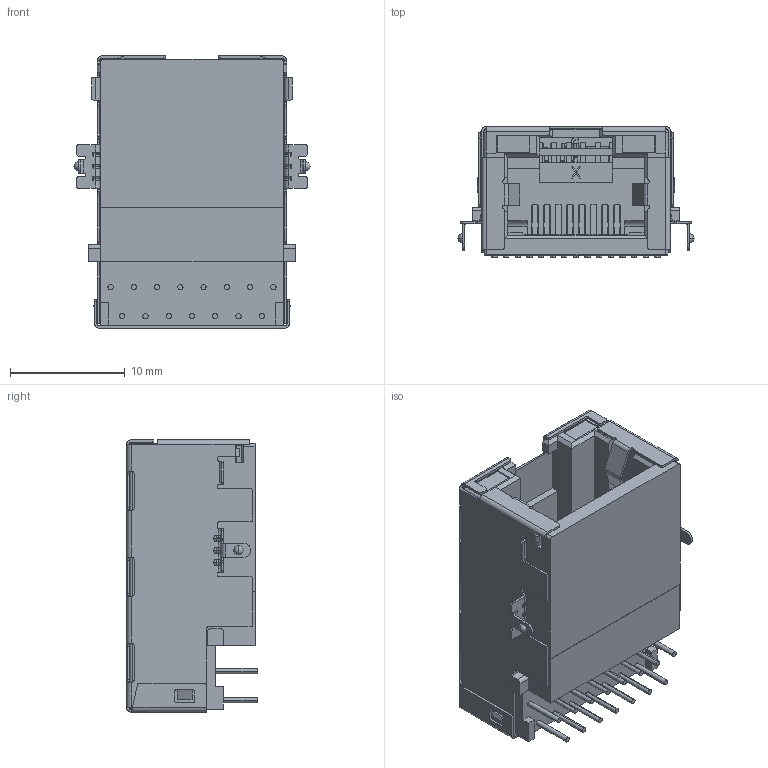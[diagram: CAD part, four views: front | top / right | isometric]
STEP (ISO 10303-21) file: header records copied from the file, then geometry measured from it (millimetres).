
FILE_DESCRIPTION((''),'2;1');
FILE_NAME('DGKYD1511Q646CF5W4CBD2057_2_5G_','2023-08-21T13:50:36',('Administrator'),(''),'CREO PARAMETRIC BY PTC INC, 2019010','CREO PARAMETRIC BY PTC INC, 2019010','');
FILE_SCHEMA(('CONFIG_CONTROL_DESIGN'));
Products named in the file (1): DGKYD1511Q646CF5W4CBD2057_2_5G_
Bounding box: 20.6 x 11.39 x 23.75 mm (x, y, z)
Volume: 2324.5 mm3; surface area: 6369 mm2
Topology: 1 solids, 2 shells, 1960 faces, 5485 edges, 3504 vertices
Faces by surface type: plane 1302, cylinder 548, bspline 76, torus 24, sphere 6, cone 4
Entity records: 65881 total; most frequent: CARTESIAN_POINT 15014, ORIENTED_EDGE 10958, DIRECTION 10185, EDGE_CURVE 5479, VECTOR 4015, LINE 4015, VERTEX_POINT 3504, AXIS2_PLACEMENT_3D 3085
